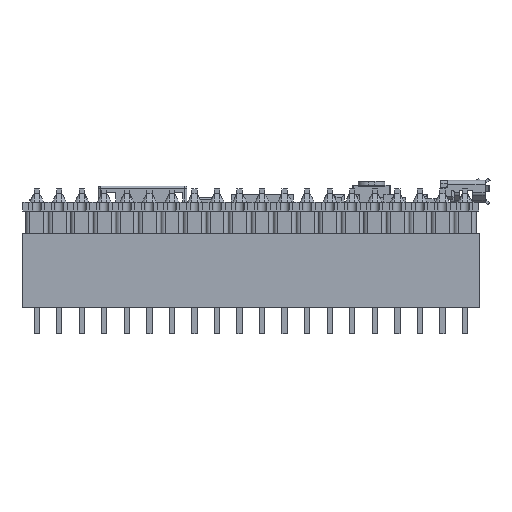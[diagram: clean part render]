
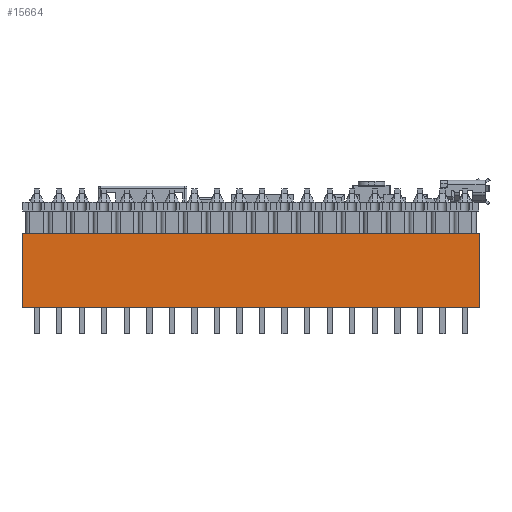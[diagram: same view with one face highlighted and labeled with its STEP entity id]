
A CAD part, left-side view. The second image highlights one B-rep face of the part: STEP entity #15664.
In plain terms, the highlighted planar face has unit normal (-1, 0, 0).
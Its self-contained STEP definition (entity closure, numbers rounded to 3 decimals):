
#15664=ADVANCED_FACE('',(#18706),#59503,.T.);
#18706=FACE_OUTER_BOUND('',#21788,.T.);
#21788=EDGE_LOOP('',(#27271,#27272,#27273,#27274));
#27271=ORIENTED_EDGE('',*,*,#41897,.T.);
#27272=ORIENTED_EDGE('',*,*,#41445,.T.);
#27273=ORIENTED_EDGE('',*,*,#41899,.F.);
#27274=ORIENTED_EDGE('',*,*,#41870,.F.);
#41445=EDGE_CURVE('',#54371,#54372,#49404,.T.);
#41870=EDGE_CURVE('',#54656,#54657,#49829,.T.);
#41897=EDGE_CURVE('',#54656,#54371,#49856,.T.);
#41899=EDGE_CURVE('',#54657,#54372,#49858,.T.);
#49404=B_SPLINE_CURVE_WITH_KNOTS('',1,(#71308,#71309),.UNSPECIFIED.,.F.,
 .F.,(2,2),(0.,8.35),.UNSPECIFIED.);
#49829=B_SPLINE_CURVE_WITH_KNOTS('',1,(#72906,#72907),.UNSPECIFIED.,.F.,
 .F.,(2,2),(0.,8.35),.UNSPECIFIED.);
#49856=B_SPLINE_CURVE_WITH_KNOTS('',1,(#73004,#73005),.UNSPECIFIED.,.F.,
 .F.,(2,2),(0.,51.54),.UNSPECIFIED.);
#49858=B_SPLINE_CURVE_WITH_KNOTS('',1,(#73008,#73009),.UNSPECIFIED.,.F.,
 .F.,(2,2),(0.,51.54),.UNSPECIFIED.);
#54371=VERTEX_POINT('',#70364);
#54372=VERTEX_POINT('',#70365);
#54656=VERTEX_POINT('',#70649);
#54657=VERTEX_POINT('',#70650);
#59503=PLANE('',#61728);
#61728=AXIS2_PLACEMENT_3D('',#70176,#64536,$);
#64536=DIRECTION('',(-1.,0.,0.));
#70176=CARTESIAN_POINT('',(-9.925,25.788,0.));
#70364=CARTESIAN_POINT('',(-9.925,-25.753,0.));
#70365=CARTESIAN_POINT('',(-9.925,-25.753,8.35));
#70649=CARTESIAN_POINT('',(-9.925,25.788,0.));
#70650=CARTESIAN_POINT('',(-9.925,25.788,8.35));
#71308=CARTESIAN_POINT('',(-9.925,-25.753,0.));
#71309=CARTESIAN_POINT('',(-9.925,-25.753,8.35));
#72906=CARTESIAN_POINT('',(-9.925,25.788,0.));
#72907=CARTESIAN_POINT('',(-9.925,25.788,8.35));
#73004=CARTESIAN_POINT('',(-9.925,25.788,0.));
#73005=CARTESIAN_POINT('',(-9.925,-25.753,0.));
#73008=CARTESIAN_POINT('',(-9.925,25.788,8.35));
#73009=CARTESIAN_POINT('',(-9.925,-25.753,8.35));
